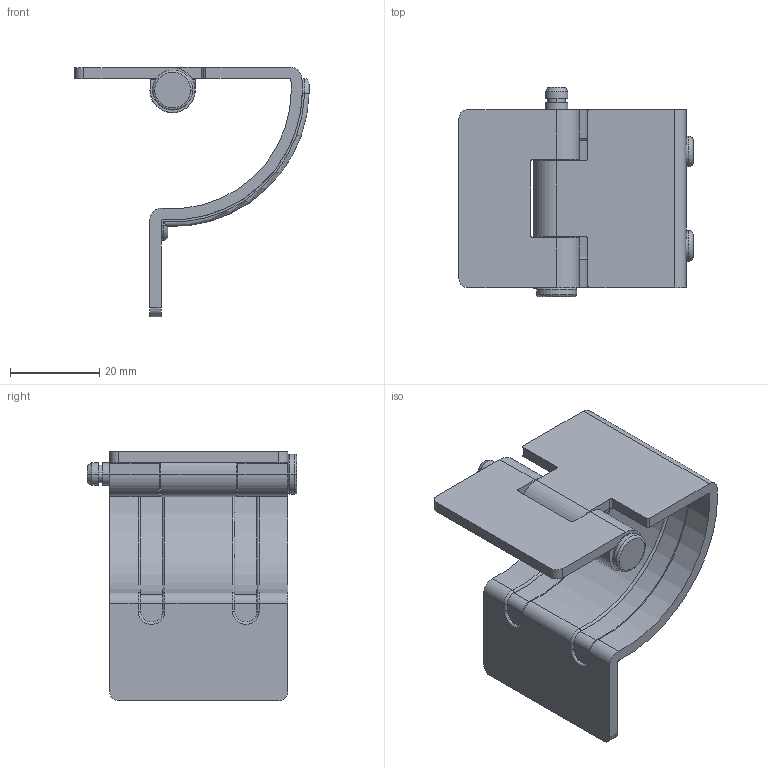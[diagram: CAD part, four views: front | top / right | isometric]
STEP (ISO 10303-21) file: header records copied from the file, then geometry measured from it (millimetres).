
FILE_DESCRIPTION (( 'STEP AP203' ), '1' );
FILE_NAME ('hl030-1.STEP', '2023-11-18T08:47:08', ( '' ), ( '' ), 'SwSTEP 2.0', 'SolidWorks 2020', '' );
FILE_SCHEMA (( 'CONFIG_CONTROL_DESIGN' ));
Length unit declared in the file: millimetre
Products named in the file (5): hl030-1; 214-m005-0470.prt; hl030-1.asm; 232-u025-2228.prt; 232-u025-2229.prt
Assembly tree (4 placements, depth 3):
  hl030-1
    hl030-1.asm
      232-u025-2229.prt
      232-u025-2228.prt
      214-m005-0470.prt
Bounding box: 52.61 x 47 x 56 mm (x, y, z)
Volume: 15473.2 mm3; surface area: 13464.1 mm2
Topology: 3 solids, 3 shells, 143 faces, 368 edges, 234 vertices
Faces by surface type: cylinder 72, plane 44, torus 22, cone 3, bspline 2
Entity records: 5611 total; most frequent: CARTESIAN_POINT 1519, DIRECTION 808, ORIENTED_EDGE 736, EDGE_CURVE 368, AXIS2_PLACEMENT_3D 319, VERTEX_POINT 234, VECTOR 170, CIRCLE 170
